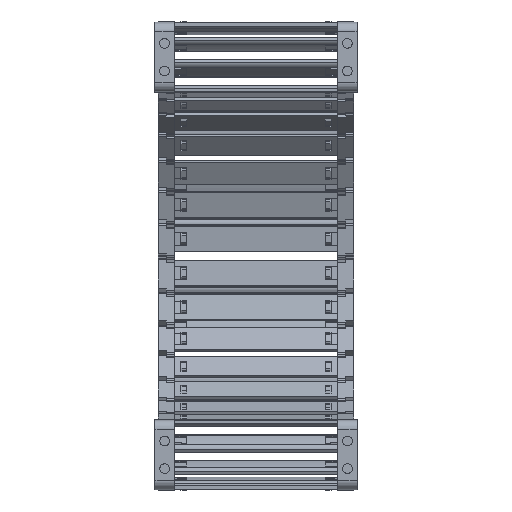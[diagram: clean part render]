
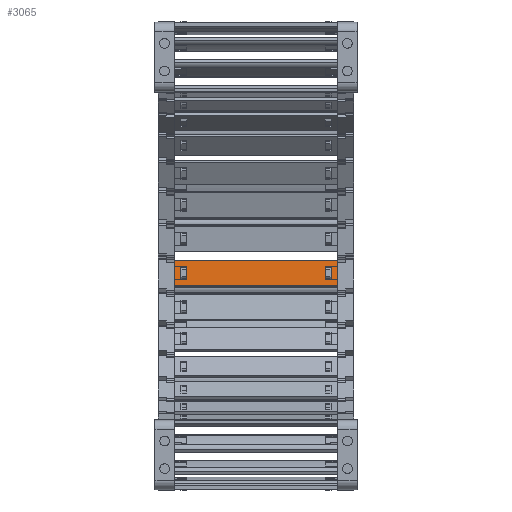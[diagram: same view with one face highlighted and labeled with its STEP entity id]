
A CAD part, left-side view. The second image highlights one B-rep face of the part: STEP entity #3065.
In plain terms, the highlighted planar face has unit normal (-0.995, 0, 0.104) as drawn and (0, 1, 0) by its records, which use the part's own axes.
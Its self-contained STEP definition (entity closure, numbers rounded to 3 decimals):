
#2485=DIRECTION('',(0.,0.,1.));
#2486=VECTOR('',#2485,15.8);
#2487=CARTESIAN_POINT('',(85.74,1.5,-7.9));
#2488=LINE('',#2487,#2486);
#2489=DIRECTION('',(-1.,0.,0.));
#2490=VECTOR('',#2489,100.5);
#2491=CARTESIAN_POINT('',(85.74,1.5,7.9));
#2492=LINE('',#2491,#2490);
#2493=DIRECTION('',(0.,0.,-1.));
#2494=VECTOR('',#2493,15.8);
#2495=CARTESIAN_POINT('',(-14.76,1.5,7.9));
#2496=LINE('',#2495,#2494);
#2497=DIRECTION('',(1.,0.,0.));
#2498=VECTOR('',#2497,3.648);
#2499=CARTESIAN_POINT('',(78.122,1.5,4.075));
#2500=LINE('',#2499,#2498);
#2501=DIRECTION('',(0.,0.,-1.));
#2502=VECTOR('',#2501,8.15);
#2503=CARTESIAN_POINT('',(81.77,1.5,4.075));
#2504=LINE('',#2503,#2502);
#2505=DIRECTION('',(-1.,0.,0.));
#2506=VECTOR('',#2505,3.648);
#2507=CARTESIAN_POINT('',(81.77,1.5,-4.075));
#2508=LINE('',#2507,#2506);
#2509=DIRECTION('',(0.,0.,-1.));
#2510=VECTOR('',#2509,8.15);
#2511=CARTESIAN_POINT('',(-7.142,1.5,4.075));
#2512=LINE('',#2511,#2510);
#2513=DIRECTION('',(-1.,0.,0.));
#2514=VECTOR('',#2513,3.648);
#2515=CARTESIAN_POINT('',(-7.142,1.5,-4.075));
#2516=LINE('',#2515,#2514);
#2517=DIRECTION('',(0.,0.,1.));
#2518=VECTOR('',#2517,8.15);
#2519=CARTESIAN_POINT('',(-10.79,1.5,-4.075));
#2520=LINE('',#2519,#2518);
#2521=DIRECTION('',(1.,0.,0.));
#2522=VECTOR('',#2521,3.648);
#2523=CARTESIAN_POINT('',(-10.79,1.5,4.075));
#2524=LINE('',#2523,#2522);
#2529=DIRECTION('',(-1.,0.,0.));
#2530=VECTOR('',#2529,100.5);
#2531=CARTESIAN_POINT('',(85.74,1.5,-7.9));
#2532=LINE('',#2531,#2530);
#2650=DIRECTION('',(0.,0.,-1.));
#2651=VECTOR('',#2650,8.15);
#2652=CARTESIAN_POINT('',(78.122,1.5,4.075));
#2653=LINE('',#2652,#2651);
#2835=CARTESIAN_POINT('',(81.77,1.5,4.075));
#2836=VERTEX_POINT('',#2835);
#2837=CARTESIAN_POINT('',(78.122,1.5,4.075));
#2838=VERTEX_POINT('',#2837);
#2879=CARTESIAN_POINT('',(78.122,1.5,-4.075));
#2880=VERTEX_POINT('',#2879);
#2881=CARTESIAN_POINT('',(81.77,1.5,-4.075));
#2882=VERTEX_POINT('',#2881);
#2883=CARTESIAN_POINT('',(85.74,1.5,7.9));
#2885=VERTEX_POINT('',#2883);
#2887=CARTESIAN_POINT('',(85.74,1.5,-7.9));
#2888=VERTEX_POINT('',#2887);
#2911=CARTESIAN_POINT('',(-7.142,1.5,4.075));
#2912=CARTESIAN_POINT('',(-7.142,1.5,-4.075));
#2913=VERTEX_POINT('',#2911);
#2914=VERTEX_POINT('',#2912);
#2915=CARTESIAN_POINT('',(-10.79,1.5,-4.075));
#2916=VERTEX_POINT('',#2915);
#2917=CARTESIAN_POINT('',(-10.79,1.5,4.075));
#2918=VERTEX_POINT('',#2917);
#2919=CARTESIAN_POINT('',(-14.76,1.5,7.9));
#2920=VERTEX_POINT('',#2919);
#2923=CARTESIAN_POINT('',(-14.76,1.5,-7.9));
#2924=VERTEX_POINT('',#2923);
#3034=CARTESIAN_POINT('',(117.48,1.5,10.061));
#3035=DIRECTION('',(0.,-1.,0.));
#3036=DIRECTION('',(0.,0.,-1.));
#3037=AXIS2_PLACEMENT_3D('',#3034,#3035,#3036);
#3038=PLANE('',#3037);
#3039=ORIENTED_EDGE('',*,*,#2973,.T.);
#3040=ORIENTED_EDGE('',*,*,#2999,.T.);
#3041=ORIENTED_EDGE('',*,*,#3012,.T.);
#3043=ORIENTED_EDGE('',*,*,#3042,.F.);
#3044=EDGE_LOOP('',(#3039,#3040,#3041,#3043));
#3045=FACE_OUTER_BOUND('',#3044,.F.);
#3047=ORIENTED_EDGE('',*,*,#3046,.F.);
#3048=ORIENTED_EDGE('',*,*,#2936,.T.);
#3050=ORIENTED_EDGE('',*,*,#3049,.T.);
#3052=ORIENTED_EDGE('',*,*,#3051,.T.);
#3053=EDGE_LOOP('',(#3047,#3048,#3050,#3052));
#3054=FACE_BOUND('',#3053,.F.);
#3056=ORIENTED_EDGE('',*,*,#3055,.T.);
#3058=ORIENTED_EDGE('',*,*,#3057,.T.);
#3060=ORIENTED_EDGE('',*,*,#3059,.T.);
#3062=ORIENTED_EDGE('',*,*,#3061,.T.);
#3063=EDGE_LOOP('',(#3056,#3058,#3060,#3062));
#3064=FACE_BOUND('',#3063,.F.);
#3065=ADVANCED_FACE('',(#3045,#3054,#3064),#3038,.F.);
#2936=EDGE_CURVE('',#2838,#2836,#2500,.T.);
#2973=EDGE_CURVE('',#2888,#2885,#2488,.T.);
#2999=EDGE_CURVE('',#2885,#2920,#2492,.T.);
#3012=EDGE_CURVE('',#2920,#2924,#2496,.T.);
#3042=EDGE_CURVE('',#2888,#2924,#2532,.T.);
#3046=EDGE_CURVE('',#2838,#2880,#2653,.T.);
#3049=EDGE_CURVE('',#2836,#2882,#2504,.T.);
#3051=EDGE_CURVE('',#2882,#2880,#2508,.T.);
#3055=EDGE_CURVE('',#2913,#2914,#2512,.T.);
#3057=EDGE_CURVE('',#2914,#2916,#2516,.T.);
#3059=EDGE_CURVE('',#2916,#2918,#2520,.T.);
#3061=EDGE_CURVE('',#2918,#2913,#2524,.T.);
